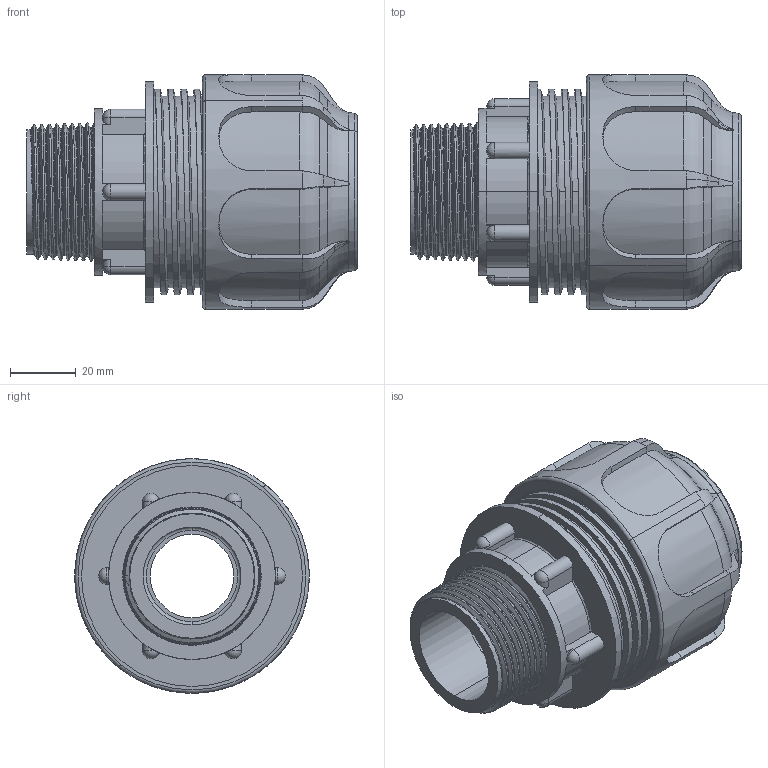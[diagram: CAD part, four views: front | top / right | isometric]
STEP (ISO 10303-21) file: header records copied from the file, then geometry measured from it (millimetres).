
FILE_DESCRIPTION (( 'STEP AP203' ), '1' );
FILE_NAME ('02004.0930.STEP', '2017-05-22T14:08:31', ( '' ), ( '' ), 'SwSTEP 2.0', 'SolidWorks 2011', '' );
FILE_SCHEMA (( 'CONFIG_CONTROL_DESIGN' ));
Products named in the file (3): 02004.0930; 01711_3232; 01770_0930
Assembly tree (2 placements, depth 2):
  02004.0930
    01770_0930
    01711_3232
Bounding box: 100.28 x 71.1 x 71.1 mm (x, y, z)
Volume: 96529.7 mm3; surface area: 76670.4 mm2
Topology: 2 solids, 2 shells, 447 faces, 1719 edges, 1274 vertices
Faces by surface type: cylinder 150, plane 131, torus 104, cone 45, bspline 11, sphere 6
Entity records: 35591 total; most frequent: CARTESIAN_POINT 22271, ORIENTED_EDGE 3416, DIRECTION 2002, EDGE_CURVE 1708, VERTEX_POINT 1272, B_SPLINE_CURVE_WITH_KNOTS 883, AXIS2_PLACEMENT_3D 811, EDGE_LOOP 458
